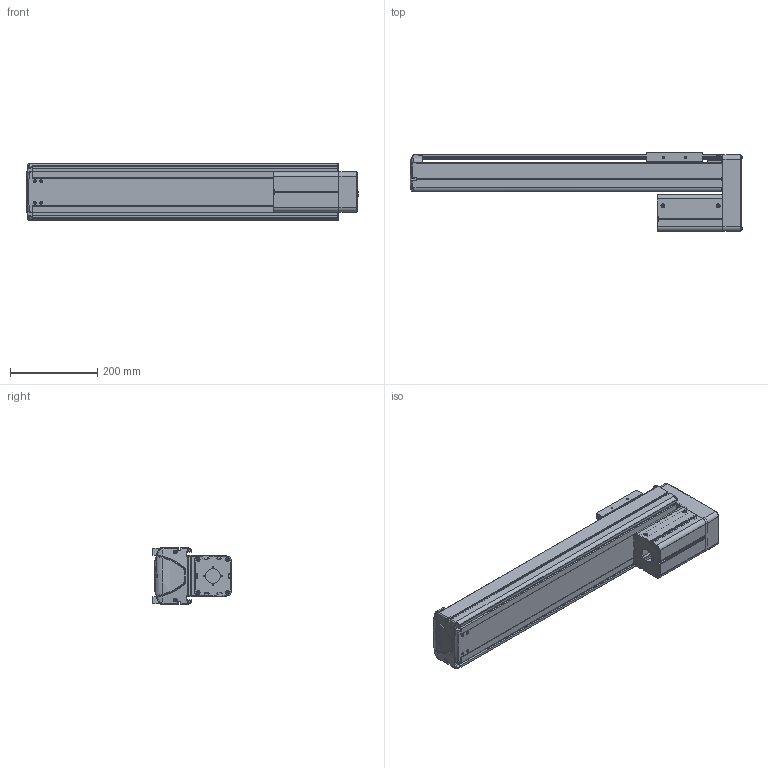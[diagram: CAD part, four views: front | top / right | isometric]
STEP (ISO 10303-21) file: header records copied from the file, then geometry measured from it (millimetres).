
FILE_DESCRIPTION((''),'2;1');
FILE_NAME('BE30E-UU-M_N-50_IGS_PRT','2017-06-17T',(' '),(''),'PRO/ENGINEER BY PARAMETRIC TECHNOLOGY CORPORATION, 2015030','PRO/ENGINEER BY PARAMETRIC TECHNOLOGY CORPORATION, 2015030','');
FILE_SCHEMA(('CONFIG_CONTROL_DESIGN'));
Length unit declared in the file: millimetre
Products named in the file (1): BE30E-UU-M_N-50_IGS_PRT
Bounding box: 761.9 x 180 x 130 mm (x, y, z)
Volume: 2757310.8 mm3; surface area: 1171949.8 mm2
Topology: 2 solids, 111 shells, 1997 faces, 5375 edges, 3482 vertices
Faces by surface type: plane 994, cylinder 805, cone 107, torus 39, bspline 28, sphere 24
Entity records: 64542 total; most frequent: CARTESIAN_POINT 13613, DIRECTION 10765, ORIENTED_EDGE 10254, EDGE_CURVE 5337, AXIS2_PLACEMENT_3D 3771, VERTEX_POINT 3482, VECTOR 3223, LINE 3223
